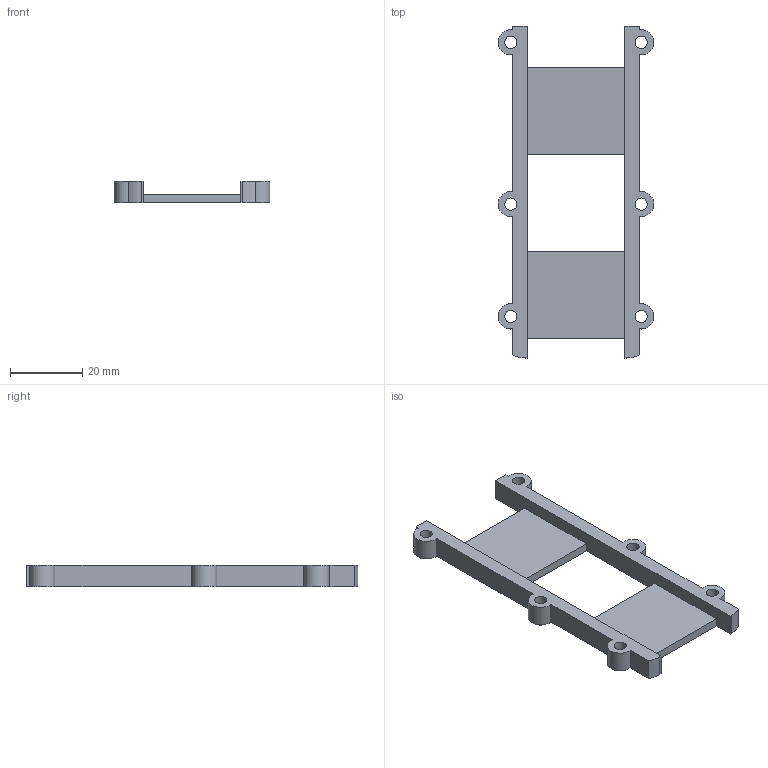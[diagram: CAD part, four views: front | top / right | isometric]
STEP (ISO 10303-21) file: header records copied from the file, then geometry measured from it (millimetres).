
FILE_DESCRIPTION(('Open CASCADE Model'),'2;1');
FILE_NAME('Open CASCADE Shape Model','2026-10-09T15:33:22',('Author'),( 'Open CASCADE'),'Open CASCADE STEP processor 7.9','Open CASCADE 7.9' ,'Unknown');
FILE_SCHEMA(('AUTOMOTIVE_DESIGN { 1 0 10303 214 1 1 1 1 }'));
Length unit declared in the file: millimetre
Products named in the file (1): Open CASCADE STEP translator 7.9 10
Bounding box: 43 x 91.7 x 6 mm (x, y, z)
Volume: 7878.6 mm3; surface area: 7063.4 mm2
Topology: 1 solids, 1 shells, 43 faces, 120 edges, 78 vertices
Faces by surface type: plane 23, cylinder 14, cone 6
Full cylindrical faces by diameter (mm): 3.4 x6
Entity records: 2911 total; most frequent: CARTESIAN_POINT 702, DIRECTION 347, ORIENTED_EDGE 240, PCURVE 240, DEFINITIONAL_REPRESENTATION 240, LINE 180, VECTOR 180, EDGE_CURVE 120
